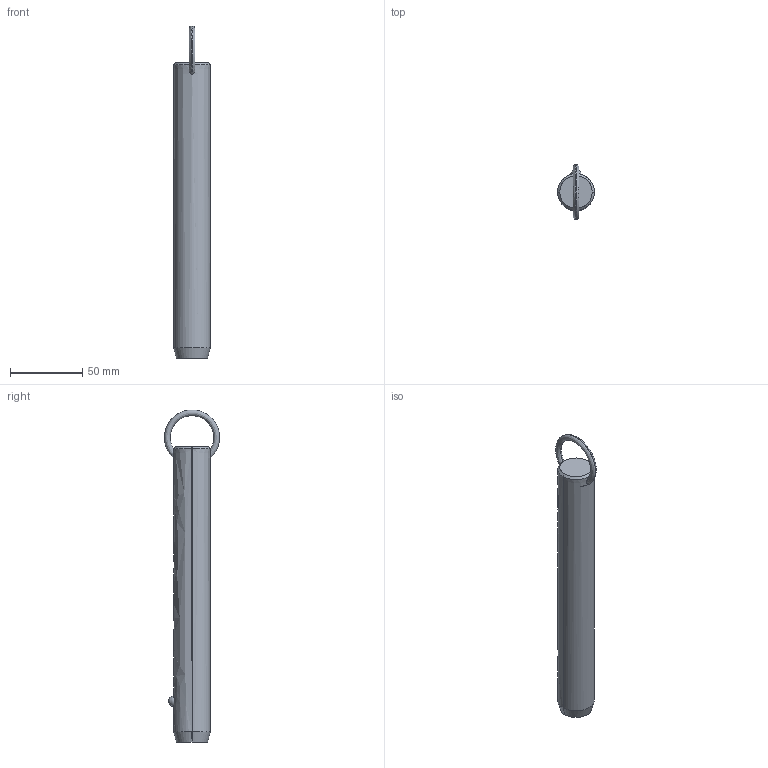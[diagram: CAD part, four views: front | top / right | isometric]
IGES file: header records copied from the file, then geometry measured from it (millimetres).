
Start section: SolidWorks IGES file using analytic representation for surfaces
Global section: file name: C:\Users\liam_\OneDrive\Documents\WORK\Work for WixRoyd\Job Files\J-00019 - Matt Davis CAD Checking\04. CAD Drawings\automotion20190605\P1250.2_v2\P1250.2_v2_20190729_IGES\P1250.100-630.igs; native system: SolidWorks 2017; preprocessor: SolidWorks 2017; author: liam_; date: 190730.174708; units: millimetre
Bounding box: 25.4 x 38.09 x 229.78 mm (x, y, z)
Surface area: 18083.7 mm2 (no closed solid volume)
Topology: 0 solids, 0 shells, 12 faces, 298 edges, 296 vertices
Faces by surface type: revolution 8, bspline 4
